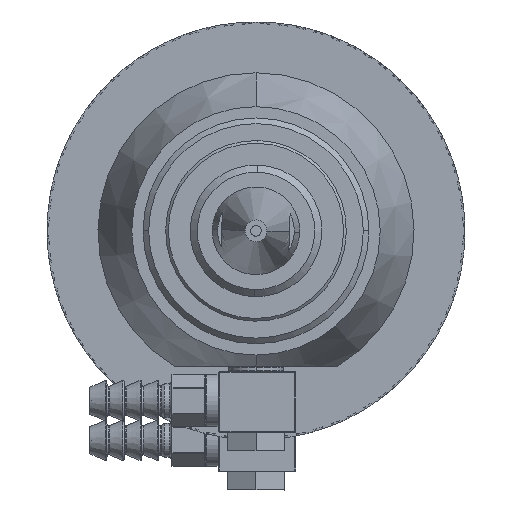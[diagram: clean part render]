
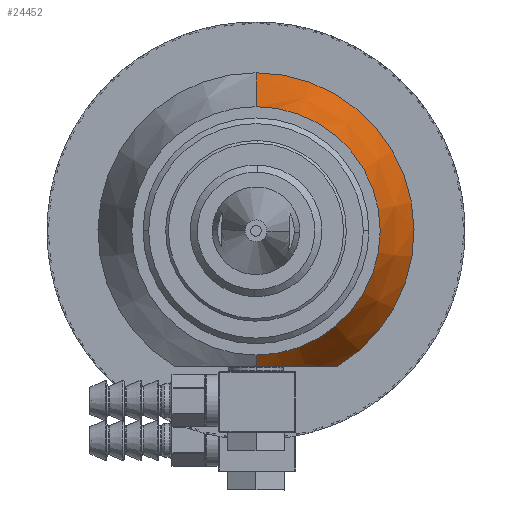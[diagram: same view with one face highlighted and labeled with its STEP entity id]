
A CAD part, front view. The second image highlights one B-rep face of the part: STEP entity #24452.
In plain terms, the highlighted conical face has half-angle 20.518 degrees and reference radius 17.462 mm.
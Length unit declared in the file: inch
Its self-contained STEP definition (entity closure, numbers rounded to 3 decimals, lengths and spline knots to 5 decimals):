
#308 = DIRECTION ( 'NONE',  ( 0., 1., 0. ) ) ;
#577 = CARTESIAN_POINT ( 'NONE',  ( -2.6493, -0.49618, 1.01753 ) ) ;
#834 = CARTESIAN_POINT ( 'NONE',  ( -2.7125, -0.54902, 1.01753 ) ) ;
#1110 = CARTESIAN_POINT ( 'NONE',  ( -2.74634, -0.5721, 1.01753 ) ) ;
#1255 = CARTESIAN_POINT ( 'NONE',  ( -2.83946, -0.6155, 1.01753 ) ) ;
#1290 = B_SPLINE_CURVE_WITH_KNOTS ( 'NONE', 3,
 ( #29574, #35966, #16573, #19905, #1110, #834, #29172, #19623, #577, #32377, #38744, #35450, #29443, #19757 ),
 .UNSPECIFIED., .F., .F.,
 ( 4, 2, 2, 2, 2, 2, 4 ),
 ( 0.07968, 0.08121, 0.08275, 0.08428, 0.08581, 0.08888, 0.09195 ),
 .UNSPECIFIED. ) ;
#1345 = EDGE_CURVE ( 'NONE', #19384, #38470, #3272, .T. ) ;
#1467 = CARTESIAN_POINT ( 'NONE',  ( -2.47711, -0.29574, 1.01753 ) ) ;
#2084 = LINE ( 'NONE', #35149, #16983 ) ;
#2410 = DIRECTION ( 'NONE',  ( 0., 0.937, 0.351 ) ) ;
#3272 = CIRCLE ( 'NONE', #6037, 0.6875 ) ;
#3507 = DIRECTION ( 'NONE',  ( 0., 0., 1. ) ) ;
#5299 = CARTESIAN_POINT ( 'NONE',  ( -2.92744, -0.79624, 1.76753 ) ) ;
#5600 = ORIENTED_EDGE ( 'NONE', *, *, #25861, .T. ) ;
#5620 = VERTEX_POINT ( 'NONE', #30002 ) ;
#6037 = AXIS2_PLACEMENT_3D ( 'NONE', #38379, #308, #3507 ) ;
#6866 = VECTOR ( 'NONE', #2410, 39.37008 ) ;
#7389 = ORIENTED_EDGE ( 'NONE', *, *, #12343, .F. ) ;
#7614 = CARTESIAN_POINT ( 'NONE',  ( -2.85364, -0.61991, 1.01753 ) ) ;
#8918 = CARTESIAN_POINT ( 'NONE',  ( -2.92744, -0.79624, 2.45503 ) ) ;
#8922 = AXIS2_PLACEMENT_3D ( 'NONE', #31634, #35121, #28471 ) ;
#12343 = EDGE_CURVE ( 'NONE', #12980, #18849, #21328, .T. ) ;
#12980 = VERTEX_POINT ( 'NONE', #26034 ) ;
#13028 = ORIENTED_EDGE ( 'NONE', *, *, #1345, .T. ) ;
#13197 = VERTEX_POINT ( 'NONE', #14773 ) ;
#14309 = CARTESIAN_POINT ( 'NONE',  ( -2.92744, -0.79624, 1.08003 ) ) ;
#14773 = CARTESIAN_POINT ( 'NONE',  ( -2.92744, -0.62924, 1.01753 ) ) ;
#14905 = DIRECTION ( 'NONE',  ( 0., 0., 1. ) ) ;
#16573 = CARTESIAN_POINT ( 'NONE',  ( -2.8006, -0.60135, 1.01753 ) ) ;
#16983 = VECTOR ( 'NONE', #19340, 39.37008 ) ;
#17125 = CARTESIAN_POINT ( 'NONE',  ( -2.9124, -0.62894, 1.01753 ) ) ;
#18849 = VERTEX_POINT ( 'NONE', #1467 ) ;
#19340 = DIRECTION ( 'NONE',  ( 0., 0.937, -0.351 ) ) ;
#19384 = VERTEX_POINT ( 'NONE', #33237 ) ;
#19533 = ORIENTED_EDGE ( 'NONE', *, *, #23767, .T. ) ;
#19623 = CARTESIAN_POINT ( 'NONE',  ( -2.66456, -0.51008, 1.01753 ) ) ;
#19757 = CARTESIAN_POINT ( 'NONE',  ( -2.47711, -0.29574, 1.01753 ) ) ;
#19905 = CARTESIAN_POINT ( 'NONE',  ( -2.76387, -0.5827, 1.01753 ) ) ;
#20306 = AXIS2_PLACEMENT_3D ( 'NONE', #5299, #27536, #14905 ) ;
#20349 = CARTESIAN_POINT ( 'NONE',  ( -2.86804, -0.62335, 1.01753 ) ) ;
#21328 = CIRCLE ( 'NONE', #8922, 0.87481 ) ;
#21960 = FACE_OUTER_BOUND ( 'NONE', #23130, .T. ) ;
#22083 = ORIENTED_EDGE ( 'NONE', *, *, #35514, .T. ) ;
#23130 = EDGE_LOOP ( 'NONE', ( #13028, #19533, #5600, #22083, #7389, #36371 ) ) ;
#23767 = EDGE_CURVE ( 'NONE', #38470, #13197, #2084, .T. ) ;
#24452 = ADVANCED_FACE ( 'NONE', ( #21960 ), #24911, .T. ) ;
#24911 = CONICAL_SURFACE ( 'NONE', #20306, 0.6875, 0.358 ) ;
#25861 = EDGE_CURVE ( 'NONE', #13197, #5620, #40528, .T. ) ;
#26034 = CARTESIAN_POINT ( 'NONE',  ( -2.92744, -0.29574, 2.64234 ) ) ;
#26714 = CARTESIAN_POINT ( 'NONE',  ( -2.89005, -0.62685, 1.01753 ) ) ;
#27536 = DIRECTION ( 'NONE',  ( 0., 1., 0. ) ) ;
#28471 = DIRECTION ( 'NONE',  ( 0., 0., 1. ) ) ;
#29172 = CARTESIAN_POINT ( 'NONE',  ( -2.6962, -0.53653, 1.01753 ) ) ;
#29443 = CARTESIAN_POINT ( 'NONE',  ( -2.50103, -0.32864, 1.01753 ) ) ;
#29574 = CARTESIAN_POINT ( 'NONE',  ( -2.83946, -0.6155, 1.01753 ) ) ;
#30002 = CARTESIAN_POINT ( 'NONE',  ( -2.83946, -0.6155, 1.01753 ) ) ;
#31634 = CARTESIAN_POINT ( 'NONE',  ( -2.92744, -0.29574, 1.76753 ) ) ;
#32377 = CARTESIAN_POINT ( 'NONE',  ( -2.60527, -0.45339, 1.01753 ) ) ;
#32933 = CARTESIAN_POINT ( 'NONE',  ( -2.92744, -0.62924, 1.01753 ) ) ;
#33237 = CARTESIAN_POINT ( 'NONE',  ( -2.92744, -0.79624, 2.45503 ) ) ;
#35121 = DIRECTION ( 'NONE',  ( 0., 1., 0. ) ) ;
#35149 = CARTESIAN_POINT ( 'NONE',  ( -2.92744, -0.79624, 1.08003 ) ) ;
#35450 = CARTESIAN_POINT ( 'NONE',  ( -2.52582, -0.36085, 1.01753 ) ) ;
#35514 = EDGE_CURVE ( 'NONE', #5620, #18849, #1290, .T. ) ;
#35966 = CARTESIAN_POINT ( 'NONE',  ( -2.81988, -0.6094, 1.01753 ) ) ;
#36126 = CARTESIAN_POINT ( 'NONE',  ( -2.91996, -0.62924, 1.01753 ) ) ;
#36371 = ORIENTED_EDGE ( 'NONE', *, *, #39122, .F. ) ;
#38379 = CARTESIAN_POINT ( 'NONE',  ( -2.92744, -0.79624, 1.76753 ) ) ;
#38470 = VERTEX_POINT ( 'NONE', #14309 ) ;
#38625 = LINE ( 'NONE', #8918, #6866 ) ;
#38744 = CARTESIAN_POINT ( 'NONE',  ( -2.57795, -0.42321, 1.01753 ) ) ;
#38908 = CARTESIAN_POINT ( 'NONE',  ( -2.89745, -0.62774, 1.01753 ) ) ;
#39122 = EDGE_CURVE ( 'NONE', #19384, #12980, #38625, .T. ) ;
#40528 = B_SPLINE_CURVE_WITH_KNOTS ( 'NONE', 3,
 ( #32933, #36126, #17125, #38908, #26714, #20349, #7614, #1255 ),
 .UNSPECIFIED., .F., .F.,
 ( 4, 2, 2, 4 ),
 ( 0.07746, 0.07801, 0.07857, 0.07968 ),
 .UNSPECIFIED. ) ;
